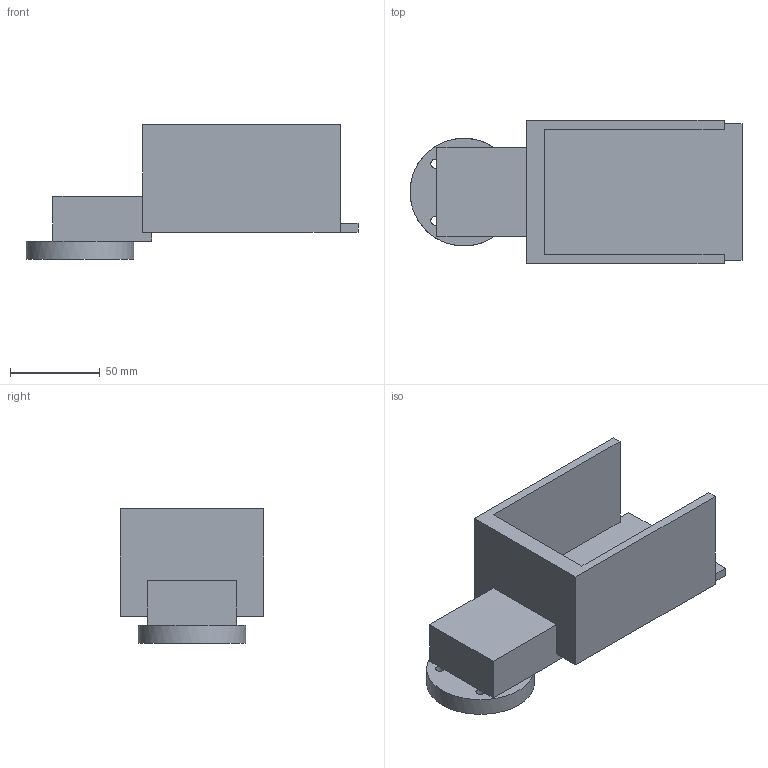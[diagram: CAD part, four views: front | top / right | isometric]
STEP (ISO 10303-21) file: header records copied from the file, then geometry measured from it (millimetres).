
FILE_DESCRIPTION(/* description */ (''),/* implementation_level */ '2;1');
FILE_NAME(/* name */ 'z1_sample_scoop.step',/* time_stamp */ '2026-11-14T21:10:58+01:00',/* author */ ('malgo'),/* organization */ (''),/* preprocessor_version */ 'ST-DEVELOPER v20.1',/* originating_system */ 'Autodesk Inventor 2026',/* authorisation */ '');
FILE_SCHEMA (('AUTOMOTIVE_DESIGN { 1 0 10303 214 3 1 1 }'));
Length unit declared in the file: metre
Products named in the file (1): z1_sample_scoop
Bounding box: 185 x 80 x 75 mm (x, y, z)
Volume: 238038.9 mm3; surface area: 65078.7 mm2
Topology: 1 solids, 1 shells, 31 faces, 81 edges, 52 vertices
Faces by surface type: plane 26, cylinder 5
Full cylindrical faces by diameter (mm): 5 x4, 60 x1
Entity records: 988 total; most frequent: CARTESIAN_POINT 165, ORIENTED_EDGE 162, DIRECTION 161, EDGE_CURVE 81, LINE 65, VECTOR 65, VERTEX_POINT 52, AXIS2_PLACEMENT_3D 48
